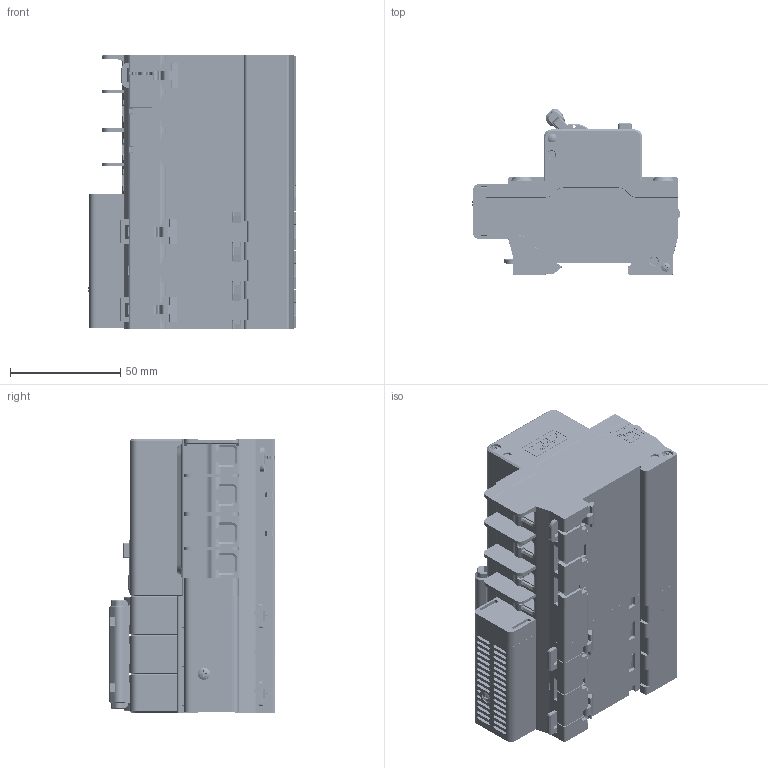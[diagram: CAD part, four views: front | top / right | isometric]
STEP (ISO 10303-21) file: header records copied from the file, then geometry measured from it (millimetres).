
FILE_DESCRIPTION((''),'2;1');
FILE_NAME('CDBHLE_3PN_63_2256021_SW0001','2019-12-21T',('dong.huang'),(''),'PRO/ENGINEER BY PARAMETRIC TECHNOLOGY CORPORATION, 2015440','PRO/ENGINEER BY PARAMETRIC TECHNOLOGY CORPORATION, 2015440','');
FILE_SCHEMA(('CONFIG_CONTROL_DESIGN'));
Products named in the file (1): CDBHLE_3PN_63_2256021_SW0001
Bounding box: 94.38 x 75.51 x 124.25 mm (x, y, z)
Volume: 429321.8 mm3; surface area: 147963.5 mm2
Topology: 5 solids, 11 shells, 12935 faces, 36273 edges, 23805 vertices
Faces by surface type: plane 8787, cylinder 2450, extrusion 987, cone 426, torus 137, sphere 93, bspline 55
Entity records: 422200 total; most frequent: CARTESIAN_POINT 89159, ORIENTED_EDGE 72350, DIRECTION 64058, EDGE_CURVE 36175, VECTOR 28310, LINE 27323, VERTEX_POINT 23805, AXIS2_PLACEMENT_3D 17874
